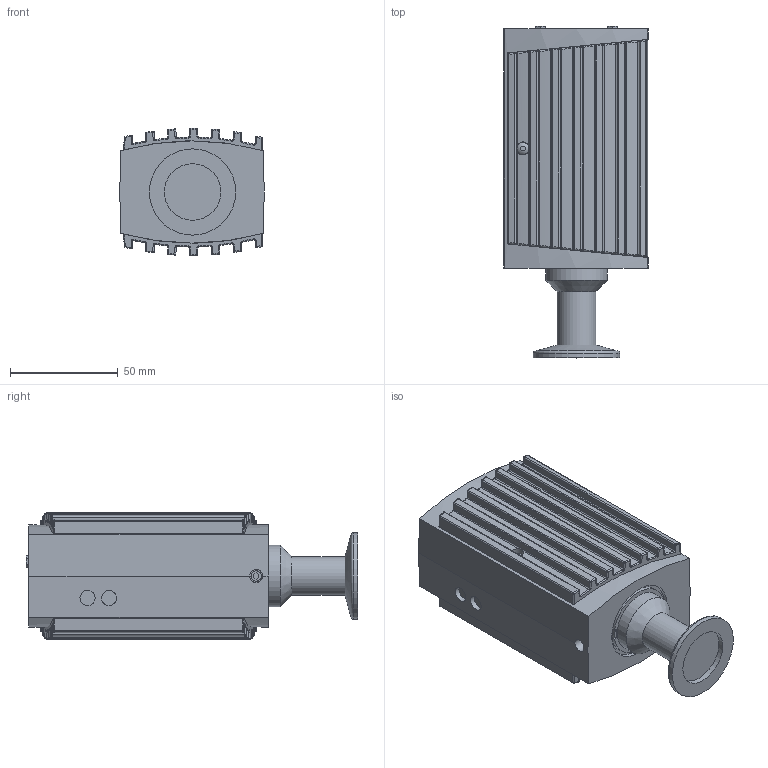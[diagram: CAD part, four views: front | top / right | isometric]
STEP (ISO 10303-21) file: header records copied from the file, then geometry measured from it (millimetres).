
FILE_DESCRIPTION((''),'2;1');
FILE_NAME('W:\Importierte Komponenten\M353-521\M353-521.stp','2013-04-04T10:59:14',('GELH'),(''),'Autodesk Inventor 2012','Autodesk Inventor 2012','');
FILE_SCHEMA(('AUTOMOTIVE_DESIGN { 1 0 10303 214 1 1 1 1 }'));
Length unit declared in the file: millimetre
Products named in the file (1): M353-521
Bounding box: 67 x 153.9 x 59 mm (x, y, z)
Volume: 137681.7 mm3; surface area: 81158.6 mm2
Topology: 2 solids, 2 shells, 798 faces, 2124 edges, 1341 vertices
Faces by surface type: plane 369, cylinder 264, bspline 100, sphere 59, cone 5, torus 1
Full cylindrical faces by diameter (mm): 1.5 x2, 2.3 x2, 2.4 x2, 2.8 x2, 3 x4, 3.2 x6, 4 x1, 4.8 x1, 5.6 x2, 6 x3, 7 x2, 18 x1, 26.2 x1, 28.7 x3, 40 x1
Entity records: 32504 total; most frequent: CARTESIAN_POINT 12473, DIRECTION 4303, ORIENTED_EDGE 4122, EDGE_CURVE 2061, AXIS2_PLACEMENT_3D 1585, VERTEX_POINT 1326, VECTOR 1133, LINE 1133
